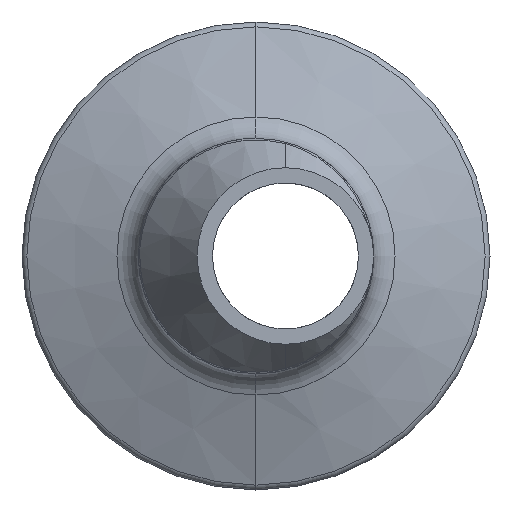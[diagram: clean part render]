
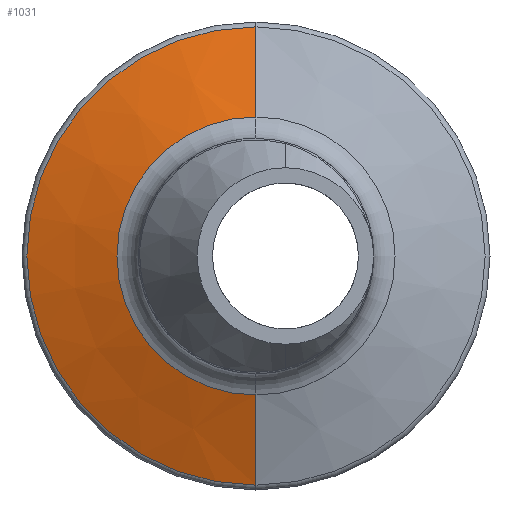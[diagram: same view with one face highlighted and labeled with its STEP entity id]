
A CAD part, left-side view. The second image highlights one B-rep face of the part: STEP entity #1031.
In plain terms, the highlighted conical face has half-angle 70 degrees and reference radius 15.003 mm.
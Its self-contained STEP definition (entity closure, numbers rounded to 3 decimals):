
#4 = DIRECTION ( 'NONE',  ( 0.342, 0., -0.94 ) ) ;
#73 = EDGE_LOOP ( 'NONE', ( #354, #241, #646, #555 ) ) ;
#134 = EDGE_CURVE ( 'NONE', #313, #183, #615, .T. ) ;
#143 = FACE_OUTER_BOUND ( 'NONE', #73, .T. ) ;
#182 = CIRCLE ( 'NONE', #1226, 24.724 ) ;
#183 = VERTEX_POINT ( 'NONE', #1050 ) ;
#221 = VECTOR ( 'NONE', #410, 1000. ) ;
#235 = AXIS2_PLACEMENT_3D ( 'NONE', #1102, #1096, #1087 ) ;
#238 = CARTESIAN_POINT ( 'NONE',  ( 30.296, 0., 0. ) ) ;
#241 = ORIENTED_EDGE ( 'NONE', *, *, #1349, .T. ) ;
#242 = CARTESIAN_POINT ( 'NONE',  ( 26.758, 0., 15.003 ) ) ;
#245 = DIRECTION ( 'NONE',  ( -1., 0., 0. ) ) ;
#257 = DIRECTION ( 'NONE',  ( 0., 0., 1. ) ) ;
#313 = VERTEX_POINT ( 'NONE', #723 ) ;
#332 = VECTOR ( 'NONE', #4, 1000. ) ;
#354 = ORIENTED_EDGE ( 'NONE', *, *, #134, .F. ) ;
#369 = VERTEX_POINT ( 'NONE', #672 ) ;
#410 = DIRECTION ( 'NONE',  ( 0.342, 0., 0.94 ) ) ;
#512 = CONICAL_SURFACE ( 'NONE', #1734, 15.003, 1.222 ) ;
#555 = ORIENTED_EDGE ( 'NONE', *, *, #562, .F. ) ;
#562 = EDGE_CURVE ( 'NONE', #183, #369, #1499, .T. ) ;
#615 = CIRCLE ( 'NONE', #235, 15.003 ) ;
#646 = ORIENTED_EDGE ( 'NONE', *, *, #792, .T. ) ;
#672 = CARTESIAN_POINT ( 'NONE',  ( 30.296, 0., -24.724 ) ) ;
#723 = CARTESIAN_POINT ( 'NONE',  ( 26.758, 0., 15.003 ) ) ;
#792 = EDGE_CURVE ( 'NONE', #1424, #369, #182, .T. ) ;
#1005 = LINE ( 'NONE', #242, #221 ) ;
#1031 = ADVANCED_FACE ( 'NONE', ( #143 ), #512, .T. ) ;
#1050 = CARTESIAN_POINT ( 'NONE',  ( 26.758, 0., -15.003 ) ) ;
#1087 = DIRECTION ( 'NONE',  ( 0., 0., 1. ) ) ;
#1096 = DIRECTION ( 'NONE',  ( -1., 0., 0. ) ) ;
#1102 = CARTESIAN_POINT ( 'NONE',  ( 26.758, 0., 0. ) ) ;
#1176 = CARTESIAN_POINT ( 'NONE',  ( 30.296, 0., 24.724 ) ) ;
#1226 = AXIS2_PLACEMENT_3D ( 'NONE', #238, #245, #257 ) ;
#1349 = EDGE_CURVE ( 'NONE', #313, #1424, #1005, .T. ) ;
#1424 = VERTEX_POINT ( 'NONE', #1176 ) ;
#1499 = LINE ( 'NONE', #1961, #332 ) ;
#1734 = AXIS2_PLACEMENT_3D ( 'NONE', #1872, #1879, #1845 ) ;
#1845 = DIRECTION ( 'NONE',  ( 0., 0., -1. ) ) ;
#1872 = CARTESIAN_POINT ( 'NONE',  ( 26.758, 0., 0. ) ) ;
#1879 = DIRECTION ( 'NONE',  ( 1., 0., 0. ) ) ;
#1961 = CARTESIAN_POINT ( 'NONE',  ( 26.758, 0., -15.003 ) ) ;
